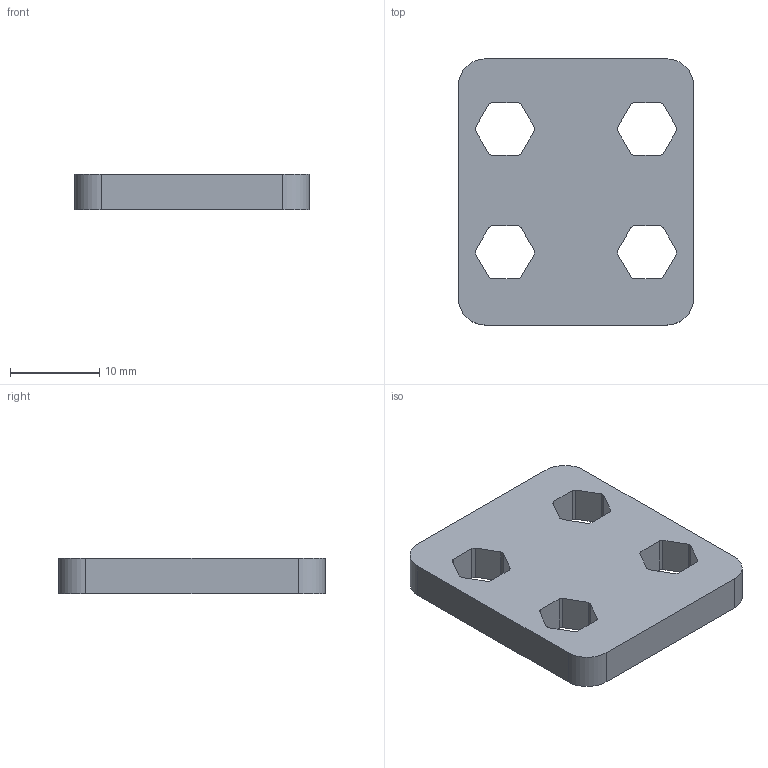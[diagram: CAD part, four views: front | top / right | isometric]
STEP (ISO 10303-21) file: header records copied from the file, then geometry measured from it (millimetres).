
FILE_DESCRIPTION(/* description */ ('','CAx-IF Rec.Pracs.---Representation and Presentation of Product Manufacturing Information (PMI)---4.0---2014-10-13'),/* implementation_level */ '2;1');
FILE_NAME(/* name */ 'nut holder.step',/* time_stamp */ '2024-12-20T12:53:37+01:00',/* author */ (''),/* organization */ (''),/* preprocessor_version */ 'ST-DEVELOPER v20',/* originating_system */ 'Autodesk Translation Framework v13.20.0.188',/* authorisation */ '');
FILE_SCHEMA (('AP242_MANAGED_MODEL_BASED_3D_ENGINEERING_MIM_LF { 1 0 10303 442 1 1 4 }'));
Length unit declared in the file: millimetre
Products named in the file (1): futbalista 4
Bounding box: 26.3 x 29.8 x 4 mm (x, y, z)
Volume: 2623.7 mm3; surface area: 2061.3 mm2
Topology: 1 solids, 1 shells, 58 faces, 168 edges, 112 vertices
Faces by surface type: plane 30, cylinder 28
Entity records: 1966 total; most frequent: DIRECTION 342, CARTESIAN_POINT 339, ORIENTED_EDGE 336, EDGE_CURVE 168, AXIS2_PLACEMENT_3D 115, LINE 112, VECTOR 112, VERTEX_POINT 112
